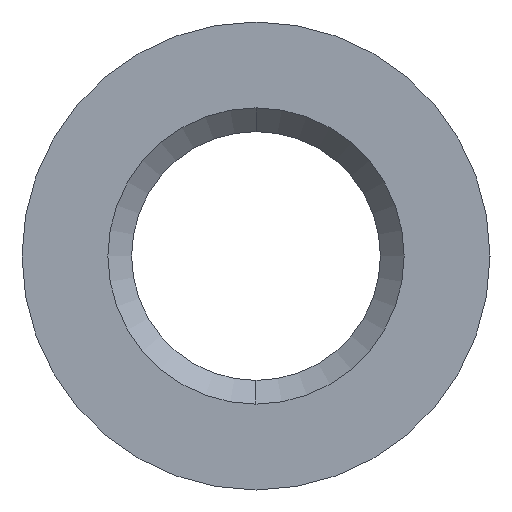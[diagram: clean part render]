
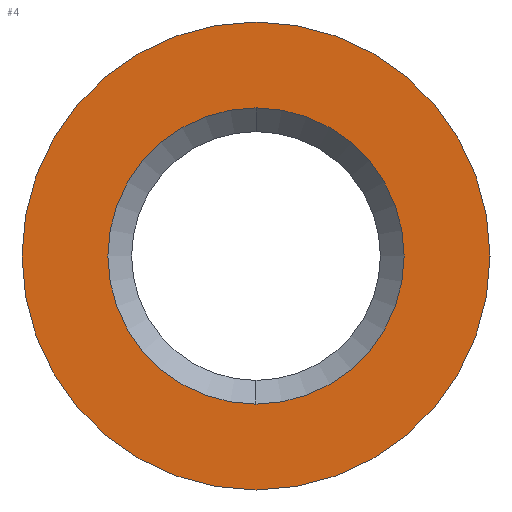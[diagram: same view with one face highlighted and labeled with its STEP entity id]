
A CAD part, left-side view. The second image highlights one B-rep face of the part: STEP entity #4.
In plain terms, the highlighted planar face has unit normal (-1, 0, 0).
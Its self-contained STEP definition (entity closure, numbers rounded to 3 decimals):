
#4 = ADVANCED_FACE ( 'NONE', ( #599, #348 ), #53, .T. ) ;
#42 = DIRECTION ( 'NONE',  ( 0., 0., 1. ) ) ;
#53 = PLANE ( 'NONE',  #698 ) ;
#54 = CARTESIAN_POINT ( 'NONE',  ( -5.82, 0., 0. ) ) ;
#80 = AXIS2_PLACEMENT_3D ( 'NONE', #131, #555, #676 ) ;
#93 = VERTEX_POINT ( 'NONE', #474 ) ;
#95 = CARTESIAN_POINT ( 'NONE',  ( -5.82, 0., -2.5 ) ) ;
#131 = CARTESIAN_POINT ( 'NONE',  ( -5.82, 0., 0. ) ) ;
#167 = AXIS2_PLACEMENT_3D ( 'NONE', #375, #612, #481 ) ;
#174 = DIRECTION ( 'NONE',  ( 0., 0., 1. ) ) ;
#196 = EDGE_LOOP ( 'NONE', ( #507, #373 ) ) ;
#240 = CARTESIAN_POINT ( 'NONE',  ( -5.82, 0., 0. ) ) ;
#294 = VERTEX_POINT ( 'NONE', #95 ) ;
#300 = CIRCLE ( 'NONE', #743, 3.95 ) ;
#339 = AXIS2_PLACEMENT_3D ( 'NONE', #54, #668, #174 ) ;
#348 = FACE_OUTER_BOUND ( 'NONE', #694, .T. ) ;
#373 = ORIENTED_EDGE ( 'NONE', *, *, #653, .T. ) ;
#375 = CARTESIAN_POINT ( 'NONE',  ( -5.82, 0., 0. ) ) ;
#408 = VERTEX_POINT ( 'NONE', #788 ) ;
#422 = DIRECTION ( 'NONE',  ( 0., 0., 1. ) ) ;
#448 = EDGE_CURVE ( 'NONE', #408, #602, #300, .T. ) ;
#474 = CARTESIAN_POINT ( 'NONE',  ( -5.82, 0., 2.5 ) ) ;
#481 = DIRECTION ( 'NONE',  ( 0., 0., 1. ) ) ;
#507 = ORIENTED_EDGE ( 'NONE', *, *, #752, .T. ) ;
#533 = CIRCLE ( 'NONE', #339, 2.5 ) ;
#555 = DIRECTION ( 'NONE',  ( -1., 0., 0. ) ) ;
#576 = ORIENTED_EDGE ( 'NONE', *, *, #448, .T. ) ;
#579 = CIRCLE ( 'NONE', #167, 2.5 ) ;
#584 = ORIENTED_EDGE ( 'NONE', *, *, #745, .T. ) ;
#587 = DIRECTION ( 'NONE',  ( -1., 0., 0. ) ) ;
#599 = FACE_BOUND ( 'NONE', #196, .T. ) ;
#602 = VERTEX_POINT ( 'NONE', #727 ) ;
#612 = DIRECTION ( 'NONE',  ( 1., 0., 0. ) ) ;
#618 = CIRCLE ( 'NONE', #80, 3.95 ) ;
#653 = EDGE_CURVE ( 'NONE', #294, #93, #533, .T. ) ;
#668 = DIRECTION ( 'NONE',  ( 1., 0., 0. ) ) ;
#676 = DIRECTION ( 'NONE',  ( 0., 0., 1. ) ) ;
#694 = EDGE_LOOP ( 'NONE', ( #576, #584 ) ) ;
#698 = AXIS2_PLACEMENT_3D ( 'NONE', #240, #587, #42 ) ;
#727 = CARTESIAN_POINT ( 'NONE',  ( -5.82, 0., 3.95 ) ) ;
#728 = CARTESIAN_POINT ( 'NONE',  ( -5.82, 0., 0. ) ) ;
#743 = AXIS2_PLACEMENT_3D ( 'NONE', #728, #792, #422 ) ;
#745 = EDGE_CURVE ( 'NONE', #602, #408, #618, .T. ) ;
#752 = EDGE_CURVE ( 'NONE', #93, #294, #579, .T. ) ;
#788 = CARTESIAN_POINT ( 'NONE',  ( -5.82, 0., -3.95 ) ) ;
#792 = DIRECTION ( 'NONE',  ( -1., 0., 0. ) ) ;
